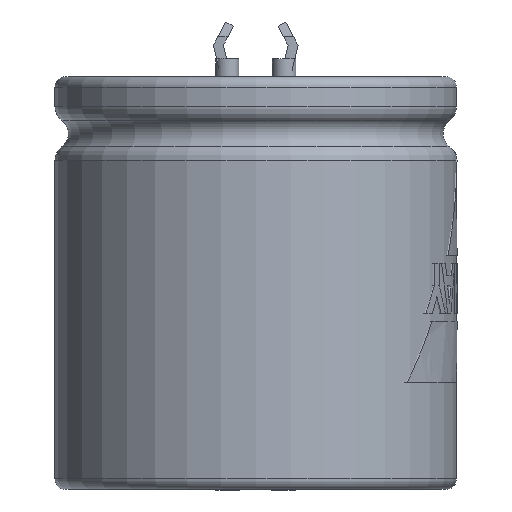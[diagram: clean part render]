
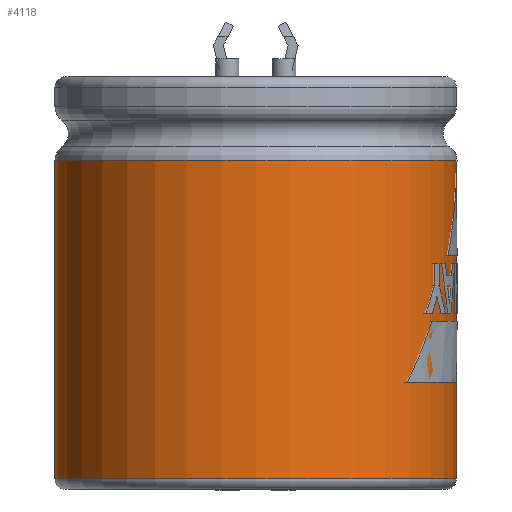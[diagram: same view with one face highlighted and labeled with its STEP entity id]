
A CAD part, left-side view. The second image highlights one B-rep face of the part: STEP entity #4118.
In plain terms, the highlighted cylindrical face has radius 18 mm (diameter 36 mm), a full revolution.
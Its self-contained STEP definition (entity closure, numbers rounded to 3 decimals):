
#4050 = TOROIDAL_SURFACE('',#4051,16.5,1.5);
#4051 = AXIS2_PLACEMENT_3D('',#4052,#4053,#4054);
#4052 = CARTESIAN_POINT('',(0.,0.,-6.55));
#4053 = DIRECTION('',(0.,0.,1.));
#4054 = DIRECTION('',(1.,0.,0.));
#4066 = EDGE_CURVE('',#4067,#4067,#4069,.T.);
#4067 = VERTEX_POINT('',#4068);
#4068 = CARTESIAN_POINT('',(18.,0.,-6.55));
#4069 = SURFACE_CURVE('',#4070,(#4075,#4082),.PCURVE_S1.);
#4070 = CIRCLE('',#4071,18.);
#4071 = AXIS2_PLACEMENT_3D('',#4072,#4073,#4074);
#4072 = CARTESIAN_POINT('',(0.,0.,-6.55));
#4073 = DIRECTION('',(0.,0.,1.));
#4074 = DIRECTION('',(1.,0.,0.));
#4075 = PCURVE('',#4050,#4076);
#4076 = DEFINITIONAL_REPRESENTATION('',(#4077),#4081);
#4077 = LINE('',#4078,#4079);
#4078 = CARTESIAN_POINT('',(0.,6.283));
#4079 = VECTOR('',#4080,1.);
#4080 = DIRECTION('',(1.,0.));
#4081 = ( GEOMETRIC_REPRESENTATION_CONTEXT(2) 
PARAMETRIC_REPRESENTATION_CONTEXT() REPRESENTATION_CONTEXT('2D SPACE',''
  ) );
#4082 = PCURVE('',#4083,#4088);
#4083 = CYLINDRICAL_SURFACE('',#4084,18.);
#4084 = AXIS2_PLACEMENT_3D('',#4085,#4086,#4087);
#4085 = CARTESIAN_POINT('',(0.,0.,-35.1));
#4086 = DIRECTION('',(0.,0.,1.));
#4087 = DIRECTION('',(1.,0.,0.));
#4088 = DEFINITIONAL_REPRESENTATION('',(#4089),#4093);
#4089 = LINE('',#4090,#4091);
#4090 = CARTESIAN_POINT('',(0.,28.55));
#4091 = VECTOR('',#4092,1.);
#4092 = DIRECTION('',(1.,0.));
#4093 = ( GEOMETRIC_REPRESENTATION_CONTEXT(2) 
PARAMETRIC_REPRESENTATION_CONTEXT() REPRESENTATION_CONTEXT('2D SPACE',''
  ) );
#4118 = ADVANCED_FACE('',(#4119),#4083,.T.);
#4119 = FACE_BOUND('',#4120,.T.);
#4120 = EDGE_LOOP('',(#4121,#4150,#4171,#4172));
#4121 = ORIENTED_EDGE('',*,*,#4122,.T.);
#4122 = EDGE_CURVE('',#4123,#4123,#4125,.T.);
#4123 = VERTEX_POINT('',#4124);
#4124 = CARTESIAN_POINT('',(18.,0.,-35.1));
#4125 = SURFACE_CURVE('',#4126,(#4131,#4138),.PCURVE_S1.);
#4126 = CIRCLE('',#4127,18.);
#4127 = AXIS2_PLACEMENT_3D('',#4128,#4129,#4130);
#4128 = CARTESIAN_POINT('',(0.,0.,-35.1));
#4129 = DIRECTION('',(0.,0.,1.));
#4130 = DIRECTION('',(1.,0.,0.));
#4131 = PCURVE('',#4083,#4132);
#4132 = DEFINITIONAL_REPRESENTATION('',(#4133),#4137);
#4133 = LINE('',#4134,#4135);
#4134 = CARTESIAN_POINT('',(0.,0.));
#4135 = VECTOR('',#4136,1.);
#4136 = DIRECTION('',(1.,0.));
#4137 = ( GEOMETRIC_REPRESENTATION_CONTEXT(2) 
PARAMETRIC_REPRESENTATION_CONTEXT() REPRESENTATION_CONTEXT('2D SPACE',''
  ) );
#4138 = PCURVE('',#4139,#4144);
#4139 = TOROIDAL_SURFACE('',#4140,17.05,0.95);
#4140 = AXIS2_PLACEMENT_3D('',#4141,#4142,#4143);
#4141 = CARTESIAN_POINT('',(0.,0.,-35.1));
#4142 = DIRECTION('',(0.,0.,1.));
#4143 = DIRECTION('',(1.,0.,0.));
#4144 = DEFINITIONAL_REPRESENTATION('',(#4145),#4149);
#4145 = LINE('',#4146,#4147);
#4146 = CARTESIAN_POINT('',(0.,6.283));
#4147 = VECTOR('',#4148,1.);
#4148 = DIRECTION('',(1.,0.));
#4149 = ( GEOMETRIC_REPRESENTATION_CONTEXT(2) 
PARAMETRIC_REPRESENTATION_CONTEXT() REPRESENTATION_CONTEXT('2D SPACE',''
  ) );
#4150 = ORIENTED_EDGE('',*,*,#4151,.T.);
#4151 = EDGE_CURVE('',#4123,#4067,#4152,.T.);
#4152 = SEAM_CURVE('',#4153,(#4157,#4164),.PCURVE_S1.);
#4153 = LINE('',#4154,#4155);
#4154 = CARTESIAN_POINT('',(18.,0.,-35.1));
#4155 = VECTOR('',#4156,1.);
#4156 = DIRECTION('',(0.,0.,1.));
#4157 = PCURVE('',#4083,#4158);
#4158 = DEFINITIONAL_REPRESENTATION('',(#4159),#4163);
#4159 = LINE('',#4160,#4161);
#4160 = CARTESIAN_POINT('',(0.,0.));
#4161 = VECTOR('',#4162,1.);
#4162 = DIRECTION('',(0.,1.));
#4163 = ( GEOMETRIC_REPRESENTATION_CONTEXT(2) 
PARAMETRIC_REPRESENTATION_CONTEXT() REPRESENTATION_CONTEXT('2D SPACE',''
  ) );
#4164 = PCURVE('',#4083,#4165);
#4165 = DEFINITIONAL_REPRESENTATION('',(#4166),#4170);
#4166 = LINE('',#4167,#4168);
#4167 = CARTESIAN_POINT('',(6.283,0.));
#4168 = VECTOR('',#4169,1.);
#4169 = DIRECTION('',(0.,1.));
#4170 = ( GEOMETRIC_REPRESENTATION_CONTEXT(2) 
PARAMETRIC_REPRESENTATION_CONTEXT() REPRESENTATION_CONTEXT('2D SPACE',''
  ) );
#4171 = ORIENTED_EDGE('',*,*,#4066,.F.);
#4172 = ORIENTED_EDGE('',*,*,#4151,.F.);
